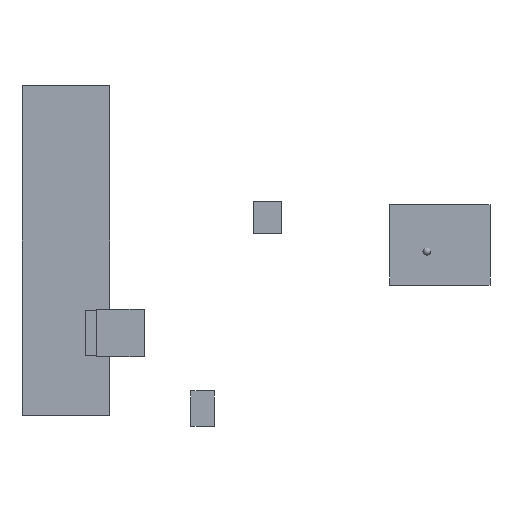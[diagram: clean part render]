
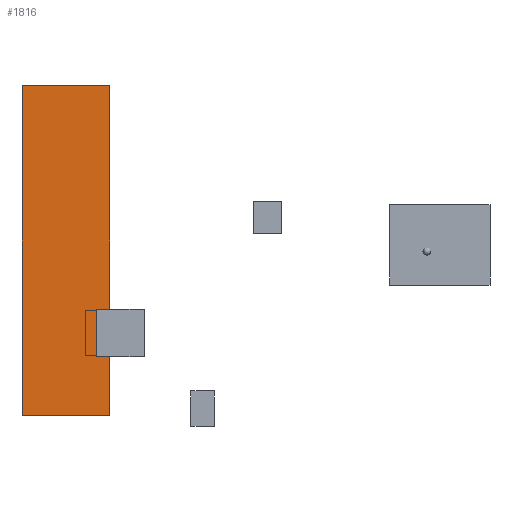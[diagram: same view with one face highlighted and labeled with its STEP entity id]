
A CAD part, left-side view. The second image highlights one B-rep face of the part: STEP entity #1816.
In plain terms, the highlighted planar face has unit normal (-1, 0, 0) as drawn and (0, 0, -1) by its records, which use the part's own axes.
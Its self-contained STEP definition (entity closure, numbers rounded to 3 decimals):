
#791=PLANE('',#5761);
#839=FACE_OUTER_BOUND('',#887,.T.);
#887=EDGE_LOOP('',(#959,#960,#961,#962));
#959=ORIENTED_EDGE('',*,*,#1138,.T.);
#960=ORIENTED_EDGE('',*,*,#1139,.F.);
#961=ORIENTED_EDGE('',*,*,#1140,.F.);
#962=ORIENTED_EDGE('',*,*,#1136,.T.);
#1136=EDGE_CURVE('',#1873,#1872,#5362,.T.);
#1138=EDGE_CURVE('',#1872,#1874,#5364,.T.);
#1139=EDGE_CURVE('',#1875,#1874,#5365,.T.);
#1140=EDGE_CURVE('',#1873,#1875,#5366,.T.);
#1816=ADVANCED_FACE('',(#839),#791,.F.);
#1872=VERTEX_POINT('',#8891);
#1873=VERTEX_POINT('',#8893);
#1874=VERTEX_POINT('',#8897);
#1875=VERTEX_POINT('',#8899);
#5362=LINE('',#8892,#5672);
#5364=LINE('',#8896,#5674);
#5365=LINE('',#8898,#5675);
#5366=LINE('',#8900,#5676);
#5672=VECTOR('',#6056,1.);
#5674=VECTOR('',#6060,1.);
#5675=VECTOR('',#6061,1.);
#5676=VECTOR('',#6062,1.);
#5761=AXIS2_PLACEMENT_3D('',#8901,#6063,#6064);
#6056=DIRECTION('',(0.,-1.,0.));
#6060=DIRECTION('',(-1.,0.,0.));
#6061=DIRECTION('',(0.,-1.,0.));
#6062=DIRECTION('',(-1.,0.,0.));
#6063=DIRECTION('',(0.,0.,1.));
#6064=DIRECTION('',(1.,0.,0.));
#8891=CARTESIAN_POINT('',(1044.831,2015.5,-205.261));
#8892=CARTESIAN_POINT('',(1044.831,2575.,-205.261));
#8893=CARTESIAN_POINT('',(1044.831,2575.,-205.261));
#8896=CARTESIAN_POINT('',(1044.831,2015.5,-205.261));
#8897=CARTESIAN_POINT('',(-1053.321,2015.5,-205.261));
#8898=CARTESIAN_POINT('',(-1053.321,2575.,-205.261));
#8899=CARTESIAN_POINT('',(-1053.321,2575.,-205.261));
#8900=CARTESIAN_POINT('',(1044.831,2575.,-205.261));
#8901=CARTESIAN_POINT('',(1044.831,2575.,-205.261));
